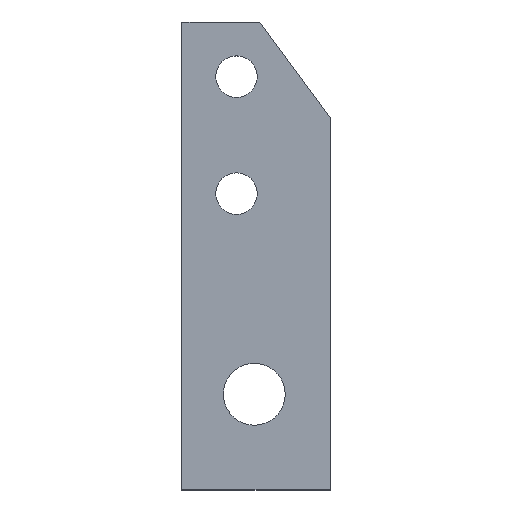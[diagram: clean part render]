
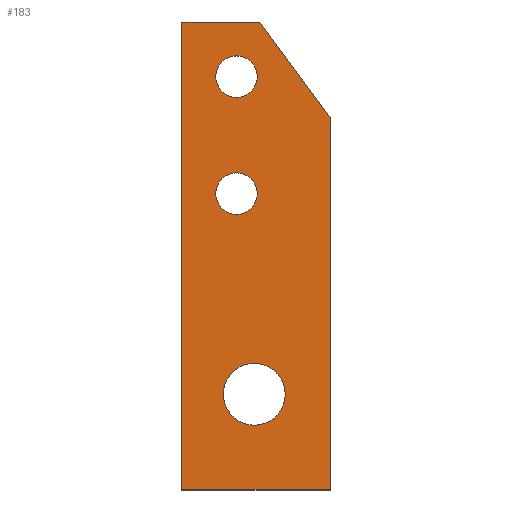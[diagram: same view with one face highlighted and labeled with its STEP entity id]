
A CAD part, top view. The second image highlights one B-rep face of the part: STEP entity #183.
In plain terms, the highlighted planar face has unit normal (0, 0, 1).
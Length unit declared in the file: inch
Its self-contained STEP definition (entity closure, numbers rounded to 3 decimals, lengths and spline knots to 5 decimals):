
#17=LINE('',#278,#32);
#23=LINE('',#290,#38);
#24=LINE('',#292,#39);
#25=LINE('',#294,#40);
#26=LINE('',#295,#41);
#32=VECTOR('',#230,0.76095);
#38=VECTOR('',#240,0.5);
#39=VECTOR('',#241,3.);
#40=VECTOR('',#242,0.95);
#41=VECTOR('',#243,2.38636);
#47=PLANE('',#201);
#58=FACE_BOUND('',#83,.T.);
#59=FACE_BOUND('',#84,.T.);
#60=FACE_BOUND('',#85,.T.);
#66=FACE_OUTER_BOUND('',#82,.T.);
#82=EDGE_LOOP('',(#151,#152,#153,#154,#155));
#83=EDGE_LOOP('',(#156));
#84=EDGE_LOOP('',(#157));
#85=EDGE_LOOP('',(#158));
#90=CIRCLE('',#191,0.133);
#92=CIRCLE('',#194,0.133);
#94=CIRCLE('',#197,0.1985);
#96=VERTEX_POINT('',#257);
#98=VERTEX_POINT('',#262);
#100=VERTEX_POINT('',#267);
#104=VERTEX_POINT('',#275);
#105=VERTEX_POINT('',#277);
#109=VERTEX_POINT('',#289);
#110=VERTEX_POINT('',#291);
#111=VERTEX_POINT('',#293);
#112=EDGE_CURVE('',#96,#96,#90,.T.);
#114=EDGE_CURVE('',#98,#98,#92,.T.);
#116=EDGE_CURVE('',#100,#100,#94,.T.);
#120=EDGE_CURVE('',#105,#104,#17,.T.);
#126=EDGE_CURVE('',#104,#109,#23,.T.);
#127=EDGE_CURVE('',#109,#110,#24,.T.);
#128=EDGE_CURVE('',#110,#111,#25,.T.);
#129=EDGE_CURVE('',#111,#105,#26,.T.);
#151=ORIENTED_EDGE('',*,*,#120,.T.);
#152=ORIENTED_EDGE('',*,*,#126,.T.);
#153=ORIENTED_EDGE('',*,*,#127,.T.);
#154=ORIENTED_EDGE('',*,*,#128,.T.);
#155=ORIENTED_EDGE('',*,*,#129,.T.);
#156=ORIENTED_EDGE('',*,*,#112,.T.);
#157=ORIENTED_EDGE('',*,*,#114,.T.);
#158=ORIENTED_EDGE('',*,*,#116,.T.);
#183=ADVANCED_FACE('',(#66,#58,#59,#60),#47,.T.);
#191=AXIS2_PLACEMENT_3D('',#258,#210,#211);
#194=AXIS2_PLACEMENT_3D('',#263,#216,#217);
#197=AXIS2_PLACEMENT_3D('',#268,#222,#223);
#201=AXIS2_PLACEMENT_3D('',#288,#238,#239);
#210=DIRECTION('center_axis',(0.,0.,-1.));
#211=DIRECTION('ref_axis',(1.,0.,0.));
#216=DIRECTION('center_axis',(0.,0.,-1.));
#217=DIRECTION('ref_axis',(1.,0.,0.));
#222=DIRECTION('center_axis',(0.,0.,-1.));
#223=DIRECTION('ref_axis',(1.,0.,0.));
#230=DIRECTION('',(-0.591,0.806,0.));
#238=DIRECTION('center_axis',(0.,0.,1.));
#239=DIRECTION('ref_axis',(1.,0.,0.));
#240=DIRECTION('',(-1.,0.,0.));
#241=DIRECTION('',(0.,-1.,0.));
#242=DIRECTION('',(1.,0.,0.));
#243=DIRECTION('',(0.,1.,0.));
#257=CARTESIAN_POINT('',(0.217,1.9,0.1875));
#258=CARTESIAN_POINT('Origin',(0.35,1.9,0.1875));
#262=CARTESIAN_POINT('',(0.217,2.65,0.1875));
#263=CARTESIAN_POINT('Origin',(0.35,2.65,0.1875));
#267=CARTESIAN_POINT('',(0.26566,0.61328,0.1875));
#268=CARTESIAN_POINT('Origin',(0.46416,0.61328,0.1875));
#275=CARTESIAN_POINT('',(0.5,3.,0.1875));
#277=CARTESIAN_POINT('',(0.95,2.38636,0.1875));
#278=CARTESIAN_POINT('',(1.07829,2.21143,0.1875));
#288=CARTESIAN_POINT('Origin',(0.475,1.5,0.1875));
#289=CARTESIAN_POINT('',(0.,3.,0.1875));
#290=CARTESIAN_POINT('',(0.95,3.,0.1875));
#291=CARTESIAN_POINT('',(0.,0.,0.1875));
#292=CARTESIAN_POINT('',(0.,3.,0.1875));
#293=CARTESIAN_POINT('',(0.95,0.,0.1875));
#294=CARTESIAN_POINT('',(0.,0.,0.1875));
#295=CARTESIAN_POINT('',(0.95,0.,0.1875));
